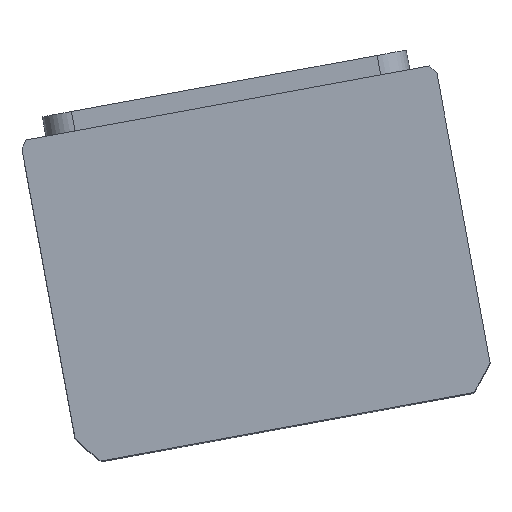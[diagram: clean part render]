
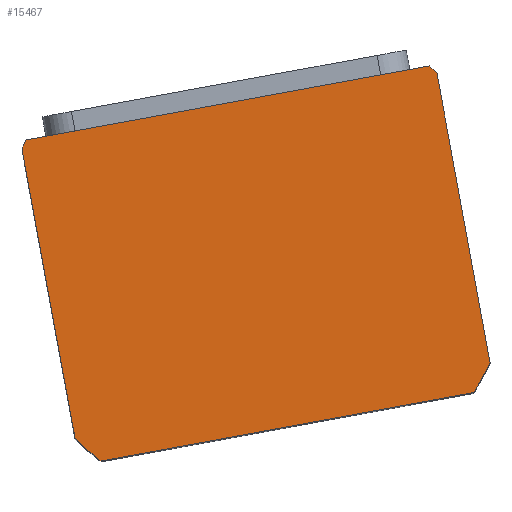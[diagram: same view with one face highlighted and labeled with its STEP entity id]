
A CAD part, top view. The second image highlights one B-rep face of the part: STEP entity #15467.
In plain terms, the highlighted planar face has unit normal (0, 0, 1) as drawn and (0, 0, -1) by its records, which use the part's own axes.
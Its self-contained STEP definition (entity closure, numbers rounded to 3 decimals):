
#2 = EDGE_CURVE ( 'NONE', #5443, #11793, #6545, .T. ) ;
#237 = ORIENTED_EDGE ( 'NONE', *, *, #10398, .F. ) ;
#248 = VECTOR ( 'NONE', #3903, 1000. ) ;
#497 = VERTEX_POINT ( 'NONE', #14562 ) ;
#537 = ORIENTED_EDGE ( 'NONE', *, *, #9086, .F. ) ;
#680 = LINE ( 'NONE', #2485, #248 ) ;
#766 = DIRECTION ( 'NONE',  ( 1., 0., 0. ) ) ;
#1157 = VERTEX_POINT ( 'NONE', #9925 ) ;
#1340 = CARTESIAN_POINT ( 'NONE',  ( -57., 42.265, 0. ) ) ;
#2310 = EDGE_LOOP ( 'NONE', ( #4485, #537, #9854, #237, #15502, #15618, #12644, #17147 ) ) ;
#2366 = DIRECTION ( 'NONE',  ( 0., 0., 1. ) ) ;
#2485 = CARTESIAN_POINT ( 'NONE',  ( -57., -44.5, 0. ) ) ;
#2635 = LINE ( 'NONE', #13880, #3523 ) ;
#2802 = DIRECTION ( 'NONE',  ( 0., 0., 1. ) ) ;
#2832 = VERTEX_POINT ( 'NONE', #3835 ) ;
#3024 = AXIS2_PLACEMENT_3D ( 'NONE', #8728, #11579, #3120 ) ;
#3120 = DIRECTION ( 'NONE',  ( 1., 0., 0. ) ) ;
#3426 = AXIS2_PLACEMENT_3D ( 'NONE', #14485, #5846, #5651 ) ;
#3523 = VECTOR ( 'NONE', #4021, 1000. ) ;
#3835 = CARTESIAN_POINT ( 'NONE',  ( -57., -37.265, 0. ) ) ;
#3894 = VERTEX_POINT ( 'NONE', #1340 ) ;
#3903 = DIRECTION ( 'NONE',  ( 1., 0., 0. ) ) ;
#4021 = DIRECTION ( 'NONE',  ( 0., -1., 0. ) ) ;
#4189 = CARTESIAN_POINT ( 'NONE',  ( 57., 44.5, 0. ) ) ;
#4485 = ORIENTED_EDGE ( 'NONE', *, *, #12054, .F. ) ;
#4503 = EDGE_CURVE ( 'NONE', #5185, #1157, #13706, .T. ) ;
#5185 = VERTEX_POINT ( 'NONE', #17642 ) ;
#5443 = VERTEX_POINT ( 'NONE', #8992 ) ;
#5541 = CARTESIAN_POINT ( 'NONE',  ( 57., 42.265, 0. ) ) ;
#5651 = DIRECTION ( 'NONE',  ( 1., 0., 0. ) ) ;
#5846 = DIRECTION ( 'NONE',  ( 0., 0., 1. ) ) ;
#5903 = PLANE ( 'NONE',  #3024 ) ;
#6268 = EDGE_CURVE ( 'NONE', #2832, #497, #13973, .T. ) ;
#6409 = CIRCLE ( 'NONE', #12706, 69.5 ) ;
#6545 = CIRCLE ( 'NONE', #3426, 69.5 ) ;
#6910 = AXIS2_PLACEMENT_3D ( 'NONE', #10821, #2366, #12248 ) ;
#7371 = AXIS2_PLACEMENT_3D ( 'NONE', #11255, #2802, #12680 ) ;
#8728 = CARTESIAN_POINT ( 'NONE',  ( 0., 0., 0. ) ) ;
#8992 = CARTESIAN_POINT ( 'NONE',  ( 51.198, -44.5, 0. ) ) ;
#9086 = EDGE_CURVE ( 'NONE', #11793, #16483, #9289, .T. ) ;
#9195 = DIRECTION ( 'NONE',  ( 0., 0., 1. ) ) ;
#9289 = LINE ( 'NONE', #4189, #13063 ) ;
#9850 = DIRECTION ( 'NONE',  ( 0., 1., 0. ) ) ;
#9854 = ORIENTED_EDGE ( 'NONE', *, *, #2, .F. ) ;
#9925 = CARTESIAN_POINT ( 'NONE',  ( -55.374, 44.5, 0. ) ) ;
#10398 = EDGE_CURVE ( 'NONE', #497, #5443, #680, .T. ) ;
#10821 = CARTESIAN_POINT ( 'NONE',  ( 0., 2.5, 0. ) ) ;
#11255 = CARTESIAN_POINT ( 'NONE',  ( 0., 2.5, 0. ) ) ;
#11579 = DIRECTION ( 'NONE',  ( 0., 0., 1. ) ) ;
#11793 = VERTEX_POINT ( 'NONE', #13056 ) ;
#12054 = EDGE_CURVE ( 'NONE', #16483, #5185, #6409, .T. ) ;
#12248 = DIRECTION ( 'NONE',  ( 1., 0., 0. ) ) ;
#12480 = CARTESIAN_POINT ( 'NONE',  ( -57., 44.5, 0. ) ) ;
#12644 = ORIENTED_EDGE ( 'NONE', *, *, #13788, .F. ) ;
#12680 = DIRECTION ( 'NONE',  ( 1., 0., 0. ) ) ;
#12706 = AXIS2_PLACEMENT_3D ( 'NONE', #17657, #9195, #766 ) ;
#12831 = VECTOR ( 'NONE', #13894, 1000. ) ;
#13020 = CIRCLE ( 'NONE', #6910, 69.5 ) ;
#13056 = CARTESIAN_POINT ( 'NONE',  ( 57., -37.265, 0. ) ) ;
#13063 = VECTOR ( 'NONE', #9850, 1000. ) ;
#13696 = EDGE_CURVE ( 'NONE', #3894, #2832, #2635, .T. ) ;
#13706 = LINE ( 'NONE', #12480, #12831 ) ;
#13788 = EDGE_CURVE ( 'NONE', #1157, #3894, #13020, .T. ) ;
#13880 = CARTESIAN_POINT ( 'NONE',  ( -57., 44.5, 0. ) ) ;
#13894 = DIRECTION ( 'NONE',  ( -1., 0., 0. ) ) ;
#13973 = CIRCLE ( 'NONE', #7371, 69.5 ) ;
#14485 = CARTESIAN_POINT ( 'NONE',  ( 0., 2.5, 0. ) ) ;
#14562 = CARTESIAN_POINT ( 'NONE',  ( -51.198, -44.5, 0. ) ) ;
#15467 = ADVANCED_FACE ( 'NONE', ( #15869 ), #5903, .F. ) ;
#15502 = ORIENTED_EDGE ( 'NONE', *, *, #6268, .F. ) ;
#15618 = ORIENTED_EDGE ( 'NONE', *, *, #13696, .F. ) ;
#15869 = FACE_OUTER_BOUND ( 'NONE', #2310, .T. ) ;
#16483 = VERTEX_POINT ( 'NONE', #5541 ) ;
#17147 = ORIENTED_EDGE ( 'NONE', *, *, #4503, .F. ) ;
#17642 = CARTESIAN_POINT ( 'NONE',  ( 55.374, 44.5, 0. ) ) ;
#17657 = CARTESIAN_POINT ( 'NONE',  ( 0., 2.5, 0. ) ) ;
